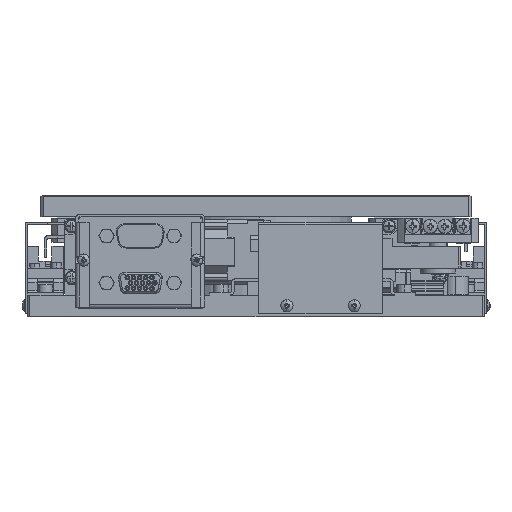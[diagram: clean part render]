
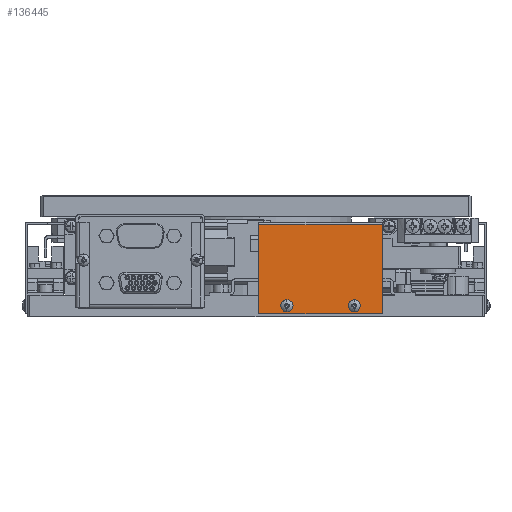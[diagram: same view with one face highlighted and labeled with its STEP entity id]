
A CAD part, front view. The second image highlights one B-rep face of the part: STEP entity #136445.
In plain terms, the highlighted planar face has unit normal (0, -1, 0).
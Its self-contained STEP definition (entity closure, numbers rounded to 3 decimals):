
#994 = AXIS2_PLACEMENT_3D ( 'NONE', #47503, #123160, #58416 ) ;
#1237 = CARTESIAN_POINT ( 'NONE',  ( 13.75, -85.8, -41. ) ) ;
#1467 = DIRECTION ( 'NONE',  ( 0., -1., 0. ) ) ;
#2799 = CARTESIAN_POINT ( 'NONE',  ( 34.25, -85.8, -41. ) ) ;
#4858 = DIRECTION ( 'NONE',  ( 0., 0., 1. ) ) ;
#5917 = FACE_OUTER_BOUND ( 'NONE', #75594, .T. ) ;
#6484 = CARTESIAN_POINT ( 'NONE',  ( 47., -85.8, -44. ) ) ;
#7165 = EDGE_LOOP ( 'NONE', ( #31017, #116368 ) ) ;
#11576 = ORIENTED_EDGE ( 'NONE', *, *, #77285, .T. ) ;
#14505 = CARTESIAN_POINT ( 'NONE',  ( 47., -85.8, -10.8 ) ) ;
#15720 = EDGE_CURVE ( 'NONE', #126933, #49491, #77160, .T. ) ;
#16420 = CARTESIAN_POINT ( 'NONE',  ( 47., -85.8, -44. ) ) ;
#17100 = VECTOR ( 'NONE', #4858, 1000. ) ;
#19254 = EDGE_LOOP ( 'NONE', ( #41495, #97155 ) ) ;
#22295 = ORIENTED_EDGE ( 'NONE', *, *, #78333, .F. ) ;
#24214 = ORIENTED_EDGE ( 'NONE', *, *, #15720, .F. ) ;
#28106 = DIRECTION ( 'NONE',  ( 0., -1., 0. ) ) ;
#29927 = DIRECTION ( 'NONE',  ( 0., -1., 0. ) ) ;
#30569 = CARTESIAN_POINT ( 'NONE',  ( 47., -85.8, -44. ) ) ;
#31017 = ORIENTED_EDGE ( 'NONE', *, *, #49071, .F. ) ;
#32009 = CIRCLE ( 'NONE', #83223, 2.25 ) ;
#34685 = AXIS2_PLACEMENT_3D ( 'NONE', #53147, #128808, #64034 ) ;
#37775 = DIRECTION ( 'NONE',  ( 0., 0., 1. ) ) ;
#38109 = PLANE ( 'NONE',  #139762 ) ;
#41495 = ORIENTED_EDGE ( 'NONE', *, *, #137235, .F. ) ;
#42226 = LINE ( 'NONE', #14505, #96384 ) ;
#42485 = LINE ( 'NONE', #69665, #17100 ) ;
#47503 = CARTESIAN_POINT ( 'NONE',  ( 11.5, -85.8, -41. ) ) ;
#49071 = EDGE_CURVE ( 'NONE', #130808, #138220, #75457, .T. ) ;
#49491 = VERTEX_POINT ( 'NONE', #70573 ) ;
#53147 = CARTESIAN_POINT ( 'NONE',  ( 36.5, -85.8, -41. ) ) ;
#55395 = EDGE_CURVE ( 'NONE', #138220, #130808, #136060, .T. ) ;
#55568 = VERTEX_POINT ( 'NONE', #99095 ) ;
#58110 = DIRECTION ( 'NONE',  ( -1., 0., 0. ) ) ;
#58416 = DIRECTION ( 'NONE',  ( 1., 0., 0. ) ) ;
#60038 = FACE_BOUND ( 'NONE', #19254, .T. ) ;
#64034 = DIRECTION ( 'NONE',  ( 1., 0., 0. ) ) ;
#66256 = CARTESIAN_POINT ( 'NONE',  ( 36.5, -85.8, -41. ) ) ;
#68072 = EDGE_CURVE ( 'NONE', #69224, #55568, #32009, .T. ) ;
#69224 = VERTEX_POINT ( 'NONE', #2799 ) ;
#69665 = CARTESIAN_POINT ( 'NONE',  ( 1., -85.8, -44. ) ) ;
#70573 = CARTESIAN_POINT ( 'NONE',  ( 1., -85.8, -44. ) ) ;
#73813 = VECTOR ( 'NONE', #95391, 1000. ) ;
#75457 = CIRCLE ( 'NONE', #127132, 2.25 ) ;
#75594 = EDGE_LOOP ( 'NONE', ( #22295, #24214, #11576, #126605 ) ) ;
#77085 = DIRECTION ( 'NONE',  ( 1., 0., 0. ) ) ;
#77160 = LINE ( 'NONE', #30569, #73813 ) ;
#77270 = CARTESIAN_POINT ( 'NONE',  ( 47., -85.8, -44. ) ) ;
#77285 = EDGE_CURVE ( 'NONE', #126933, #118885, #139317, .T. ) ;
#78136 = CARTESIAN_POINT ( 'NONE',  ( 47., -85.8, -10.8 ) ) ;
#78333 = EDGE_CURVE ( 'NONE', #49491, #109740, #42485, .T. ) ;
#83223 = AXIS2_PLACEMENT_3D ( 'NONE', #66256, #1467, #77085 ) ;
#88736 = FACE_BOUND ( 'NONE', #7165, .T. ) ;
#94746 = CARTESIAN_POINT ( 'NONE',  ( 11.5, -85.8, -41. ) ) ;
#95377 = CARTESIAN_POINT ( 'NONE',  ( 9.25, -85.8, -41. ) ) ;
#95391 = DIRECTION ( 'NONE',  ( -1., 0., 0. ) ) ;
#96384 = VECTOR ( 'NONE', #58110, 1000. ) ;
#97155 = ORIENTED_EDGE ( 'NONE', *, *, #68072, .F. ) ;
#99095 = CARTESIAN_POINT ( 'NONE',  ( 38.75, -85.8, -41. ) ) ;
#103853 = DIRECTION ( 'NONE',  ( 1., 0., 0. ) ) ;
#104894 = CARTESIAN_POINT ( 'NONE',  ( 1., -85.8, -10.8 ) ) ;
#105639 = DIRECTION ( 'NONE',  ( 1., 0., 0. ) ) ;
#109599 = EDGE_CURVE ( 'NONE', #118885, #109740, #42226, .T. ) ;
#109740 = VERTEX_POINT ( 'NONE', #104894 ) ;
#110482 = VECTOR ( 'NONE', #37775, 1000. ) ;
#110734 = CIRCLE ( 'NONE', #34685, 2.25 ) ;
#116368 = ORIENTED_EDGE ( 'NONE', *, *, #55395, .F. ) ;
#118885 = VERTEX_POINT ( 'NONE', #78136 ) ;
#123160 = DIRECTION ( 'NONE',  ( 0., -1., 0. ) ) ;
#126605 = ORIENTED_EDGE ( 'NONE', *, *, #109599, .T. ) ;
#126933 = VERTEX_POINT ( 'NONE', #77270 ) ;
#127132 = AXIS2_PLACEMENT_3D ( 'NONE', #94746, #29927, #105639 ) ;
#128808 = DIRECTION ( 'NONE',  ( 0., -1., 0. ) ) ;
#130808 = VERTEX_POINT ( 'NONE', #1237 ) ;
#136060 = CIRCLE ( 'NONE', #994, 2.25 ) ;
#136445 = ADVANCED_FACE ( 'NONE', ( #60038, #88736, #5917 ), #38109, .T. ) ;
#137235 = EDGE_CURVE ( 'NONE', #55568, #69224, #110734, .T. ) ;
#138220 = VERTEX_POINT ( 'NONE', #95377 ) ;
#139317 = LINE ( 'NONE', #16420, #110482 ) ;
#139762 = AXIS2_PLACEMENT_3D ( 'NONE', #6484, #28106, #103853 ) ;
